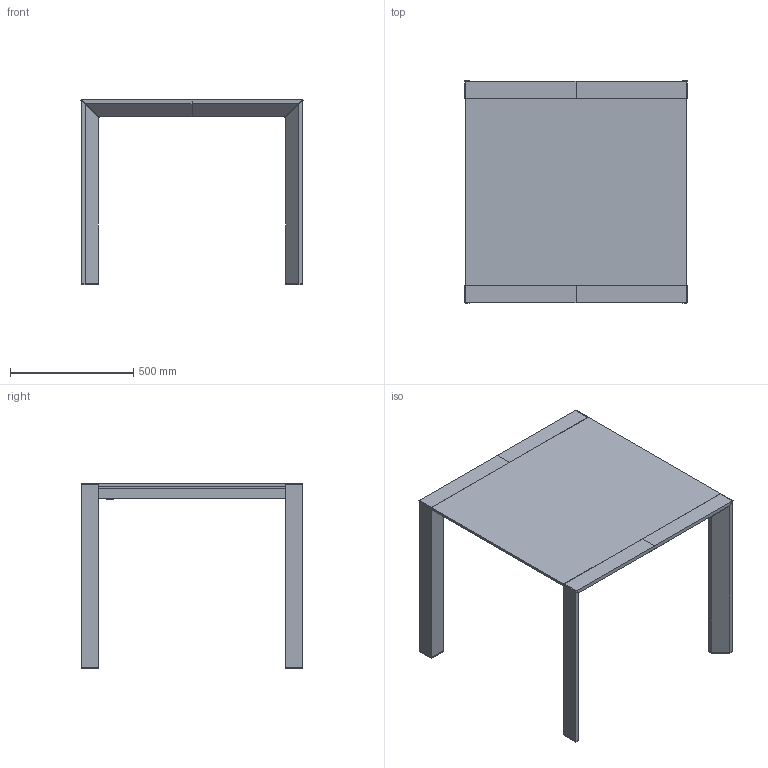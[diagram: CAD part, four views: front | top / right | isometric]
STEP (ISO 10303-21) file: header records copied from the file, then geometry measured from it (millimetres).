
FILE_DESCRIPTION(/* description */ (''),/* implementation_level */ '2;1');
FILE_NAME(/* name */ '10662 - Afill 90x90',/* time_stamp */ '2010-11-03T15:08:52+01:00',/* author */ (''),/* organization */ (''),/* preprocessor_version */ 'ST-DEVELOPER v10',/* originating_system */ '',/* authorisation */ '');
FILE_SCHEMA (('CONFIG_CONTROL_DESIGN'));
Length unit declared in the file: centimetre
Products named in the file (1): 1
Bounding box: 902.24 x 900.6 x 751.1 mm (x, y, z)
Volume: 31936926.6 mm3; surface area: 4109678.2 mm2
Topology: 14 solids, 14 shells, 166 faces, 380 edges, 250 vertices
Faces by surface type: plane 166
Entity records: 4246 total; most frequent: CARTESIAN_POINT 1346, ORIENTED_EDGE 760, EDGE_CURVE 380, B_SPLINE_CURVE_WITH_KNOTS 380, VERTEX_POINT 250, EDGE_LOOP 174, DIRECTION 170, AXIS2_PLACEMENT_3D 168
